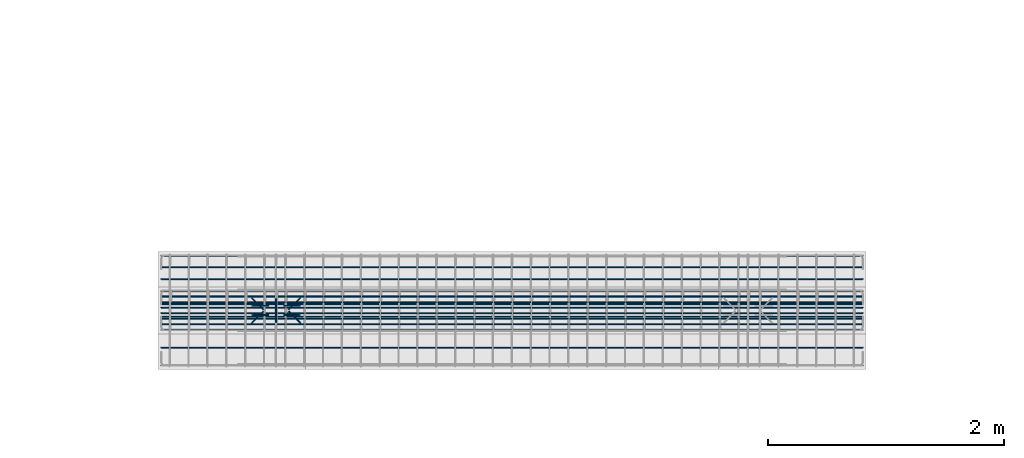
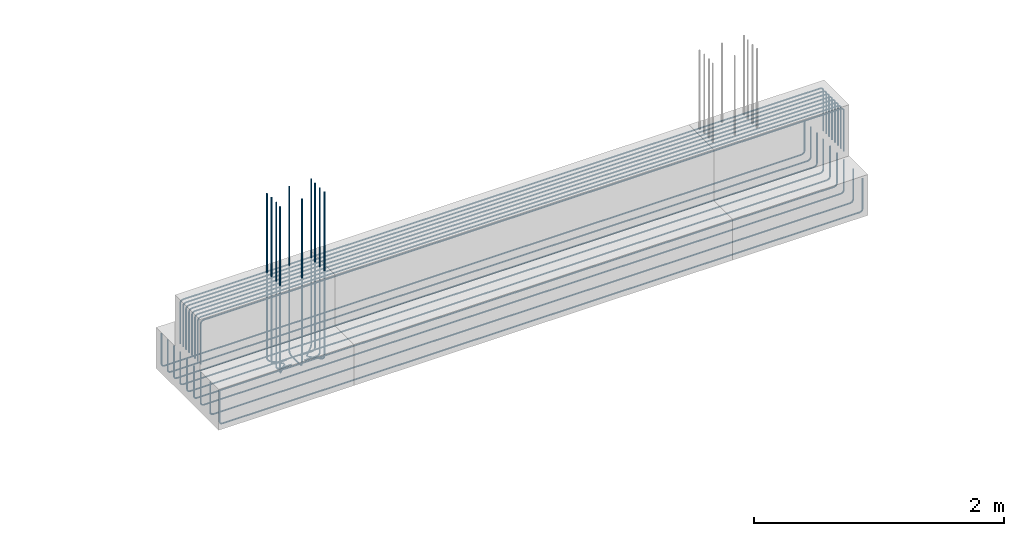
# One storey, part 20 of 23: 3 reinforcing bars.
"""IFC2X3 building model written with IfcOpenShell, lengths in metres."""

from ifc_helpers import new_model, entity, si_unit, direction, frame, origin, place, context, subcontext, project, spatial, shape, source, transform, mapped, element, save


model = new_model("IFC2X3")

# Units and contexts
model_context = context("Model", 3, precision=0.0, world=origin(), true_north=direction((0.0, 1.0)))
plan_context = context("Plan", 3, precision=0.0, world=origin(), true_north=direction((0.0, 1.0)))
body_context = subcontext(model_context, "Body", "Model", "MODEL_VIEW", scale=1.0)
ifc_project = project(units=[si_unit("LENGTHUNIT", "METRE"), si_unit("AREAUNIT", "SQUARE_METRE"), si_unit("VOLUMEUNIT", "CUBIC_METRE"), si_unit("PLANEANGLEUNIT", "RADIAN"), si_unit("THERMODYNAMICTEMPERATUREUNIT", "DEGREE_CELSIUS"), si_unit("FORCEUNIT", "NEWTON"), si_unit("MASSUNIT", "GRAM", prefix="KILO")], contexts=[model_context, plan_context])

# Site, building, storey
placement = place(None, origin())
site = spatial("IfcSite", under=ifc_project, at=placement, Name="Default Site", CompositionType="ELEMENT")
building = spatial("IfcBuilding", under=site, at=placement, Name="Default Building", CompositionType="ELEMENT")
storey_placement = place(placement, frame((0.0, 0.0, 0.0), z_axis=(1.0, 0.0, 0.0), x_axis=(0.0, 0.0, 1.0)))
storey = spatial("IfcBuildingStorey", under=building, at=storey_placement, Name="Piano 0", CompositionType="ELEMENT", Elevation=0.0)

# Reinforcing bars
shared_shape_1 = source(origin(), body_context, None, "AdvancedSweptSolid", [
    entity("IfcSweptDiskSolid", entity("IfcCompositeCurve", [entity("IfcCompositeCurveSegment", "CONTINUOUS", True, entity("IfcPolyline", [entity("IfcCartesianPoint", [0.0, 0.0, 0.0]), entity("IfcCartesianPoint", [0.0, 0.0, 0.396]), entity("IfcCartesianPoint", [0.003751, 0.0, 0.41]), entity("IfcCartesianPoint", [0.014, 0.0, 0.420249]), entity("IfcCartesianPoint", [0.028, 0.0, 0.424]), entity("IfcCartesianPoint", [0.972, 0.0, 0.424]), entity("IfcCartesianPoint", [4.972, 0.0, 0.424]), entity("IfcCartesianPoint", [5.916, 0.0, 0.424]), entity("IfcCartesianPoint", [5.93, 0.0, 0.420249]), entity("IfcCartesianPoint", [5.940249, 0.0, 0.41]), entity("IfcCartesianPoint", [5.944, 0.0, 0.396]), entity("IfcCartesianPoint", [5.944, 0.0, 0.0])]))], False), 0.007, 0.0, 0.0),
])
shared_shape_2 = source(origin(), body_context, None, "MappedRepresentation", [mapped(shared_shape_1, transform((11.028, -0.165, -0.466)))])
shared_shape_3 = source(origin(), body_context, None, "AdvancedSweptSolid", [
    entity("IfcSweptDiskSolid", entity("IfcCompositeCurve", [entity("IfcCompositeCurveSegment", "CONTINUOUS", True, entity("IfcPolyline", [entity("IfcCartesianPoint", [0.0, 0.0, 0.0]), entity("IfcCartesianPoint", [0.0, 0.0, 0.396]), entity("IfcCartesianPoint", [0.003751, 0.0, 0.41]), entity("IfcCartesianPoint", [0.014, 0.0, 0.420249]), entity("IfcCartesianPoint", [0.028, 0.0, 0.424]), entity("IfcCartesianPoint", [0.972, 0.0, 0.424]), entity("IfcCartesianPoint", [4.972, 0.0, 0.424]), entity("IfcCartesianPoint", [5.916, 0.0, 0.424]), entity("IfcCartesianPoint", [5.93, 0.0, 0.420249]), entity("IfcCartesianPoint", [5.940249, 0.0, 0.41]), entity("IfcCartesianPoint", [5.944, 0.0, 0.396]), entity("IfcCartesianPoint", [5.944, 0.0, 0.0])]))], False), 0.007, 0.0, 0.0),
])
shared_shape_4 = source(origin(), body_context, None, "MappedRepresentation", [mapped(shared_shape_3, transform((11.028, -0.117857, -0.466)))])
shared_shape_5 = source(origin(), body_context, None, "AdvancedSweptSolid", [
    entity("IfcSweptDiskSolid", entity("IfcCompositeCurve", [entity("IfcCompositeCurveSegment", "CONTINUOUS", True, entity("IfcPolyline", [entity("IfcCartesianPoint", [0.0, 0.0, 0.0]), entity("IfcCartesianPoint", [0.0, 0.0, 0.396]), entity("IfcCartesianPoint", [0.003751, 0.0, 0.41]), entity("IfcCartesianPoint", [0.014, 0.0, 0.420249]), entity("IfcCartesianPoint", [0.028, 0.0, 0.424]), entity("IfcCartesianPoint", [0.972, 0.0, 0.424]), entity("IfcCartesianPoint", [4.972, 0.0, 0.424]), entity("IfcCartesianPoint", [5.916, 0.0, 0.424]), entity("IfcCartesianPoint", [5.93, 0.0, 0.420249]), entity("IfcCartesianPoint", [5.940249, 0.0, 0.41]), entity("IfcCartesianPoint", [5.944, 0.0, 0.396]), entity("IfcCartesianPoint", [5.944, 0.0, 0.0])]))], False), 0.007, 0.0, 0.0),
])
shared_shape_6 = source(origin(), body_context, None, "MappedRepresentation", [mapped(shared_shape_5, transform((11.028, -0.070714, -0.466)))])
shared_shape_7 = source(origin(), body_context, None, "AdvancedSweptSolid", [
    entity("IfcSweptDiskSolid", entity("IfcCompositeCurve", [entity("IfcCompositeCurveSegment", "CONTINUOUS", True, entity("IfcPolyline", [entity("IfcCartesianPoint", [0.0, 0.0, 0.0]), entity("IfcCartesianPoint", [0.0, 0.0, 0.396]), entity("IfcCartesianPoint", [0.003751, 0.0, 0.41]), entity("IfcCartesianPoint", [0.014, 0.0, 0.420249]), entity("IfcCartesianPoint", [0.028, 0.0, 0.424]), entity("IfcCartesianPoint", [0.972, 0.0, 0.424]), entity("IfcCartesianPoint", [4.972, 0.0, 0.424]), entity("IfcCartesianPoint", [5.916, 0.0, 0.424]), entity("IfcCartesianPoint", [5.93, 0.0, 0.420249]), entity("IfcCartesianPoint", [5.940249, 0.0, 0.41]), entity("IfcCartesianPoint", [5.944, 0.0, 0.396]), entity("IfcCartesianPoint", [5.944, 0.0, 0.0])]))], False), 0.007, 0.0, 0.0),
])
shared_shape_8 = source(origin(), body_context, None, "MappedRepresentation", [mapped(shared_shape_7, transform((11.028, -0.023571, -0.466)))])
shared_shape_9 = source(origin(), body_context, None, "AdvancedSweptSolid", [
    entity("IfcSweptDiskSolid", entity("IfcCompositeCurve", [entity("IfcCompositeCurveSegment", "CONTINUOUS", True, entity("IfcPolyline", [entity("IfcCartesianPoint", [0.0, 0.0, 0.0]), entity("IfcCartesianPoint", [0.0, 0.0, 0.396]), entity("IfcCartesianPoint", [0.003751, 0.0, 0.41]), entity("IfcCartesianPoint", [0.014, 0.0, 0.420249]), entity("IfcCartesianPoint", [0.028, 0.0, 0.424]), entity("IfcCartesianPoint", [0.972, 0.0, 0.424]), entity("IfcCartesianPoint", [4.972, 0.0, 0.424]), entity("IfcCartesianPoint", [5.916, 0.0, 0.424]), entity("IfcCartesianPoint", [5.93, 0.0, 0.420249]), entity("IfcCartesianPoint", [5.940249, 0.0, 0.41]), entity("IfcCartesianPoint", [5.944, 0.0, 0.396]), entity("IfcCartesianPoint", [5.944, 0.0, 0.0])]))], False), 0.007, 0.0, 0.0),
])
shared_shape_10 = source(origin(), body_context, None, "MappedRepresentation", [mapped(shared_shape_9, transform((11.028, 0.023571, -0.466)))])
shared_shape_11 = source(origin(), body_context, None, "AdvancedSweptSolid", [
    entity("IfcSweptDiskSolid", entity("IfcCompositeCurve", [entity("IfcCompositeCurveSegment", "CONTINUOUS", True, entity("IfcPolyline", [entity("IfcCartesianPoint", [0.0, 0.0, 0.0]), entity("IfcCartesianPoint", [0.0, 0.0, 0.396]), entity("IfcCartesianPoint", [0.003751, 0.0, 0.41]), entity("IfcCartesianPoint", [0.014, 0.0, 0.420249]), entity("IfcCartesianPoint", [0.028, 0.0, 0.424]), entity("IfcCartesianPoint", [0.972, 0.0, 0.424]), entity("IfcCartesianPoint", [4.972, 0.0, 0.424]), entity("IfcCartesianPoint", [5.916, 0.0, 0.424]), entity("IfcCartesianPoint", [5.93, 0.0, 0.420249]), entity("IfcCartesianPoint", [5.940249, 0.0, 0.41]), entity("IfcCartesianPoint", [5.944, 0.0, 0.396]), entity("IfcCartesianPoint", [5.944, 0.0, 0.0])]))], False), 0.007, 0.0, 0.0),
])
shared_shape_12 = source(origin(), body_context, None, "MappedRepresentation", [mapped(shared_shape_11, transform((11.028, 0.070714, -0.466)))])
shared_shape_13 = source(origin(), body_context, None, "AdvancedSweptSolid", [
    entity("IfcSweptDiskSolid", entity("IfcCompositeCurve", [entity("IfcCompositeCurveSegment", "CONTINUOUS", True, entity("IfcPolyline", [entity("IfcCartesianPoint", [0.0, 0.0, 0.0]), entity("IfcCartesianPoint", [0.0, 0.0, 0.396]), entity("IfcCartesianPoint", [0.003751, 0.0, 0.41]), entity("IfcCartesianPoint", [0.014, 0.0, 0.420249]), entity("IfcCartesianPoint", [0.028, 0.0, 0.424]), entity("IfcCartesianPoint", [0.972, 0.0, 0.424]), entity("IfcCartesianPoint", [4.972, 0.0, 0.424]), entity("IfcCartesianPoint", [5.916, 0.0, 0.424]), entity("IfcCartesianPoint", [5.93, 0.0, 0.420249]), entity("IfcCartesianPoint", [5.940249, 0.0, 0.41]), entity("IfcCartesianPoint", [5.944, 0.0, 0.396]), entity("IfcCartesianPoint", [5.944, 0.0, 0.0])]))], False), 0.007, 0.0, 0.0),
])
shared_shape_14 = source(origin(), body_context, None, "MappedRepresentation", [mapped(shared_shape_13, transform((11.028, 0.117857, -0.466)))])
shared_shape_15 = source(origin(), body_context, None, "AdvancedSweptSolid", [
    entity("IfcSweptDiskSolid", entity("IfcCompositeCurve", [entity("IfcCompositeCurveSegment", "CONTINUOUS", True, entity("IfcPolyline", [entity("IfcCartesianPoint", [0.0, 0.0, 0.0]), entity("IfcCartesianPoint", [0.0, 0.0, 0.396]), entity("IfcCartesianPoint", [0.003751, 0.0, 0.41]), entity("IfcCartesianPoint", [0.014, 0.0, 0.420249]), entity("IfcCartesianPoint", [0.028, 0.0, 0.424]), entity("IfcCartesianPoint", [0.972, 0.0, 0.424]), entity("IfcCartesianPoint", [4.972, 0.0, 0.424]), entity("IfcCartesianPoint", [5.916, 0.0, 0.424]), entity("IfcCartesianPoint", [5.93, 0.0, 0.420249]), entity("IfcCartesianPoint", [5.940249, 0.0, 0.41]), entity("IfcCartesianPoint", [5.944, 0.0, 0.396]), entity("IfcCartesianPoint", [5.944, 0.0, 0.0])]))], False), 0.007, 0.0, 0.0),
])
shared_shape_16 = source(origin(), body_context, None, "MappedRepresentation", [mapped(shared_shape_15, transform((11.028, 0.165, -0.466)))])
element("IfcReinforcingBar", 1, at=placement, inside=storey, Name="Arm Superiore; Trave:1 [Piano:0]", BarLength=54.310963, BarRole="MAIN", BarSurface="TEXTURED", NominalDiameter=0.014, shapes=[
    shape(body_context, None, "MappedRepresentation", [mapped(shared_shape_2, transform((0.0, 0.0, 0.0))), mapped(shared_shape_4, transform((0.0, 0.0, 0.0))), mapped(shared_shape_6, transform((0.0, 0.0, 0.0))), mapped(shared_shape_8, transform((0.0, 0.0, 0.0))), mapped(shared_shape_10, transform((0.0, 0.0, 0.0))), mapped(shared_shape_12, transform((0.0, 0.0, 0.0))), mapped(shared_shape_14, transform((0.0, 0.0, 0.0))), mapped(shared_shape_16, transform((0.0, 0.0, 0.0)))]),
])
shared_shape_17 = source(origin(), body_context, None, "AdvancedSweptSolid", [
    entity("IfcSweptDiskSolid", entity("IfcCompositeCurve", [entity("IfcCompositeCurveSegment", "CONTINUOUS", True, entity("IfcPolyline", [entity("IfcCartesianPoint", [0.0, 0.0, 0.0]), entity("IfcCartesianPoint", [0.0, 0.0, -0.296]), entity("IfcCartesianPoint", [0.003751, 0.0, -0.31]), entity("IfcCartesianPoint", [0.014, 0.0, -0.320249]), entity("IfcCartesianPoint", [0.028, 0.0, -0.324]), entity("IfcCartesianPoint", [0.972, 0.0, -0.324]), entity("IfcCartesianPoint", [4.972, 0.0, -0.324]), entity("IfcCartesianPoint", [5.916, 0.0, -0.324]), entity("IfcCartesianPoint", [5.93, 0.0, -0.320249]), entity("IfcCartesianPoint", [5.940249, 0.0, -0.31]), entity("IfcCartesianPoint", [5.944, 0.0, -0.296]), entity("IfcCartesianPoint", [5.944, 0.0, 0.0])]))], False), 0.007, 0.0, 0.0),
])
shared_shape_18 = source(origin(), body_context, None, "MappedRepresentation", [mapped(shared_shape_17, transform((11.028, -0.465, -0.548)))])
shared_shape_19 = source(origin(), body_context, None, "AdvancedSweptSolid", [
    entity("IfcSweptDiskSolid", entity("IfcCompositeCurve", [entity("IfcCompositeCurveSegment", "CONTINUOUS", True, entity("IfcPolyline", [entity("IfcCartesianPoint", [0.0, 0.0, 0.0]), entity("IfcCartesianPoint", [0.0, 0.0, -0.296]), entity("IfcCartesianPoint", [0.003751, 0.0, -0.31]), entity("IfcCartesianPoint", [0.014, 0.0, -0.320249]), entity("IfcCartesianPoint", [0.028, 0.0, -0.324]), entity("IfcCartesianPoint", [0.972, 0.0, -0.324]), entity("IfcCartesianPoint", [4.972, 0.0, -0.324]), entity("IfcCartesianPoint", [5.916, 0.0, -0.324]), entity("IfcCartesianPoint", [5.93, 0.0, -0.320249]), entity("IfcCartesianPoint", [5.940249, 0.0, -0.31]), entity("IfcCartesianPoint", [5.944, 0.0, -0.296]), entity("IfcCartesianPoint", [5.944, 0.0, 0.0])]))], False), 0.007, 0.0, 0.0),
])
shared_shape_20 = source(origin(), body_context, None, "MappedRepresentation", [mapped(shared_shape_19, transform((11.028, -0.315, -0.548)))])
shared_shape_21 = source(origin(), body_context, None, "AdvancedSweptSolid", [
    entity("IfcSweptDiskSolid", entity("IfcCompositeCurve", [entity("IfcCompositeCurveSegment", "CONTINUOUS", True, entity("IfcPolyline", [entity("IfcCartesianPoint", [0.0, 0.0, 0.0]), entity("IfcCartesianPoint", [0.0, 0.0, -0.296]), entity("IfcCartesianPoint", [0.003751, 0.0, -0.31]), entity("IfcCartesianPoint", [0.014, 0.0, -0.320249]), entity("IfcCartesianPoint", [0.028, 0.0, -0.324]), entity("IfcCartesianPoint", [0.972, 0.0, -0.324]), entity("IfcCartesianPoint", [4.972, 0.0, -0.324]), entity("IfcCartesianPoint", [5.916, 0.0, -0.324]), entity("IfcCartesianPoint", [5.93, 0.0, -0.320249]), entity("IfcCartesianPoint", [5.940249, 0.0, -0.31]), entity("IfcCartesianPoint", [5.944, 0.0, -0.296]), entity("IfcCartesianPoint", [5.944, 0.0, 0.0])]))], False), 0.007, 0.0, 0.0),
])
shared_shape_22 = source(origin(), body_context, None, "MappedRepresentation", [mapped(shared_shape_21, transform((11.028, -0.165, -0.548)))])
shared_shape_23 = source(origin(), body_context, None, "AdvancedSweptSolid", [
    entity("IfcSweptDiskSolid", entity("IfcCompositeCurve", [entity("IfcCompositeCurveSegment", "CONTINUOUS", True, entity("IfcPolyline", [entity("IfcCartesianPoint", [0.0, 0.0, 0.0]), entity("IfcCartesianPoint", [0.0, 0.0, -0.296]), entity("IfcCartesianPoint", [0.003751, 0.0, -0.31]), entity("IfcCartesianPoint", [0.014, 0.0, -0.320249]), entity("IfcCartesianPoint", [0.028, 0.0, -0.324]), entity("IfcCartesianPoint", [0.972, 0.0, -0.324]), entity("IfcCartesianPoint", [4.972, 0.0, -0.324]), entity("IfcCartesianPoint", [5.916, 0.0, -0.324]), entity("IfcCartesianPoint", [5.93, 0.0, -0.320249]), entity("IfcCartesianPoint", [5.940249, 0.0, -0.31]), entity("IfcCartesianPoint", [5.944, 0.0, -0.296]), entity("IfcCartesianPoint", [5.944, 0.0, 0.0])]))], False), 0.007, 0.0, 0.0),
])
shared_shape_24 = source(origin(), body_context, None, "MappedRepresentation", [mapped(shared_shape_23, transform((11.028, -0.055, -0.548)))])
shared_shape_25 = source(origin(), body_context, None, "AdvancedSweptSolid", [
    entity("IfcSweptDiskSolid", entity("IfcCompositeCurve", [entity("IfcCompositeCurveSegment", "CONTINUOUS", True, entity("IfcPolyline", [entity("IfcCartesianPoint", [0.0, 0.0, 0.0]), entity("IfcCartesianPoint", [0.0, 0.0, -0.296]), entity("IfcCartesianPoint", [0.003751, 0.0, -0.31]), entity("IfcCartesianPoint", [0.014, 0.0, -0.320249]), entity("IfcCartesianPoint", [0.028, 0.0, -0.324]), entity("IfcCartesianPoint", [0.972, 0.0, -0.324]), entity("IfcCartesianPoint", [4.972, 0.0, -0.324]), entity("IfcCartesianPoint", [5.916, 0.0, -0.324]), entity("IfcCartesianPoint", [5.93, 0.0, -0.320249]), entity("IfcCartesianPoint", [5.940249, 0.0, -0.31]), entity("IfcCartesianPoint", [5.944, 0.0, -0.296]), entity("IfcCartesianPoint", [5.944, 0.0, 0.0])]))], False), 0.007, 0.0, 0.0),
])
shared_shape_26 = source(origin(), body_context, None, "MappedRepresentation", [mapped(shared_shape_25, transform((11.028, 0.055, -0.548)))])
shared_shape_27 = source(origin(), body_context, None, "AdvancedSweptSolid", [
    entity("IfcSweptDiskSolid", entity("IfcCompositeCurve", [entity("IfcCompositeCurveSegment", "CONTINUOUS", True, entity("IfcPolyline", [entity("IfcCartesianPoint", [0.0, 0.0, 0.0]), entity("IfcCartesianPoint", [0.0, 0.0, -0.296]), entity("IfcCartesianPoint", [0.003751, 0.0, -0.31]), entity("IfcCartesianPoint", [0.014, 0.0, -0.320249]), entity("IfcCartesianPoint", [0.028, 0.0, -0.324]), entity("IfcCartesianPoint", [0.972, 0.0, -0.324]), entity("IfcCartesianPoint", [4.972, 0.0, -0.324]), entity("IfcCartesianPoint", [5.916, 0.0, -0.324]), entity("IfcCartesianPoint", [5.93, 0.0, -0.320249]), entity("IfcCartesianPoint", [5.940249, 0.0, -0.31]), entity("IfcCartesianPoint", [5.944, 0.0, -0.296]), entity("IfcCartesianPoint", [5.944, 0.0, 0.0])]))], False), 0.007, 0.0, 0.0),
])
shared_shape_28 = source(origin(), body_context, None, "MappedRepresentation", [mapped(shared_shape_27, transform((11.028, 0.165, -0.548)))])
shared_shape_29 = source(origin(), body_context, None, "AdvancedSweptSolid", [
    entity("IfcSweptDiskSolid", entity("IfcCompositeCurve", [entity("IfcCompositeCurveSegment", "CONTINUOUS", True, entity("IfcPolyline", [entity("IfcCartesianPoint", [0.0, 0.0, 0.0]), entity("IfcCartesianPoint", [0.0, 0.0, -0.296]), entity("IfcCartesianPoint", [0.003751, 0.0, -0.31]), entity("IfcCartesianPoint", [0.014, 0.0, -0.320249]), entity("IfcCartesianPoint", [0.028, 0.0, -0.324]), entity("IfcCartesianPoint", [0.972, 0.0, -0.324]), entity("IfcCartesianPoint", [4.972, 0.0, -0.324]), entity("IfcCartesianPoint", [5.916, 0.0, -0.324]), entity("IfcCartesianPoint", [5.93, 0.0, -0.320249]), entity("IfcCartesianPoint", [5.940249, 0.0, -0.31]), entity("IfcCartesianPoint", [5.944, 0.0, -0.296]), entity("IfcCartesianPoint", [5.944, 0.0, 0.0])]))], False), 0.007, 0.0, 0.0),
])
shared_shape_30 = source(origin(), body_context, None, "MappedRepresentation", [mapped(shared_shape_29, transform((11.028, 0.265, -0.548)))])
shared_shape_31 = source(origin(), body_context, None, "AdvancedSweptSolid", [
    entity("IfcSweptDiskSolid", entity("IfcCompositeCurve", [entity("IfcCompositeCurveSegment", "CONTINUOUS", True, entity("IfcPolyline", [entity("IfcCartesianPoint", [0.0, 0.0, 0.0]), entity("IfcCartesianPoint", [0.0, 0.0, -0.296]), entity("IfcCartesianPoint", [0.003751, 0.0, -0.31]), entity("IfcCartesianPoint", [0.014, 0.0, -0.320249]), entity("IfcCartesianPoint", [0.028, 0.0, -0.324]), entity("IfcCartesianPoint", [0.972, 0.0, -0.324]), entity("IfcCartesianPoint", [4.972, 0.0, -0.324]), entity("IfcCartesianPoint", [5.916, 0.0, -0.324]), entity("IfcCartesianPoint", [5.93, 0.0, -0.320249]), entity("IfcCartesianPoint", [5.940249, 0.0, -0.31]), entity("IfcCartesianPoint", [5.944, 0.0, -0.296]), entity("IfcCartesianPoint", [5.944, 0.0, 0.0])]))], False), 0.007, 0.0, 0.0),
])
shared_shape_32 = source(origin(), body_context, None, "MappedRepresentation", [mapped(shared_shape_31, transform((11.028, 0.365, -0.548)))])
shared_shape_33 = source(origin(), body_context, None, "AdvancedSweptSolid", [
    entity("IfcSweptDiskSolid", entity("IfcCompositeCurve", [entity("IfcCompositeCurveSegment", "CONTINUOUS", True, entity("IfcPolyline", [entity("IfcCartesianPoint", [0.0, 0.0, 0.0]), entity("IfcCartesianPoint", [0.0, 0.0, -0.296]), entity("IfcCartesianPoint", [0.003751, 0.0, -0.31]), entity("IfcCartesianPoint", [0.014, 0.0, -0.320249]), entity("IfcCartesianPoint", [0.028, 0.0, -0.324]), entity("IfcCartesianPoint", [0.972, 0.0, -0.324]), entity("IfcCartesianPoint", [4.972, 0.0, -0.324]), entity("IfcCartesianPoint", [5.916, 0.0, -0.324]), entity("IfcCartesianPoint", [5.93, 0.0, -0.320249]), entity("IfcCartesianPoint", [5.940249, 0.0, -0.31]), entity("IfcCartesianPoint", [5.944, 0.0, -0.296]), entity("IfcCartesianPoint", [5.944, 0.0, 0.0])]))], False), 0.007, 0.0, 0.0),
])
shared_shape_34 = source(origin(), body_context, None, "MappedRepresentation", [mapped(shared_shape_33, transform((11.028, 0.465, -0.548)))])
element("IfcReinforcingBar", 2, at=placement, inside=storey, Name="Arm Inferiore; Trave:1 [Piano:0]", BarLength=59.302963, BarRole="MAIN", BarSurface="TEXTURED", NominalDiameter=0.014, shapes=[
    shape(body_context, None, "MappedRepresentation", [mapped(shared_shape_18, transform((0.0, 0.0, 0.0))), mapped(shared_shape_20, transform((0.0, 0.0, 0.0))), mapped(shared_shape_22, transform((0.0, 0.0, 0.0))), mapped(shared_shape_24, transform((0.0, 0.0, 0.0))), mapped(shared_shape_26, transform((0.0, 0.0, 0.0))), mapped(shared_shape_28, transform((0.0, 0.0, 0.0))), mapped(shared_shape_30, transform((0.0, 0.0, 0.0))), mapped(shared_shape_32, transform((0.0, 0.0, 0.0))), mapped(shared_shape_34, transform((0.0, 0.0, 0.0)))]),
])
shared_shape_35 = source(origin(), body_context, None, "AdvancedSweptSolid", [
    entity("IfcSweptDiskSolid", entity("IfcCompositeCurve", [entity("IfcCompositeCurveSegment", "CONTINUOUS", True, entity("IfcPolyline", [entity("IfcCartesianPoint", [0.0, 0.0, 0.0]), entity("IfcCartesianPoint", [-0.079196, -0.079196, 0.0]), entity("IfcCartesianPoint", [-0.089095, -0.089095, 0.003751]), entity("IfcCartesianPoint", [-0.096342, -0.096342, 0.014]), entity("IfcCartesianPoint", [-0.098995, -0.098995, 0.028]), entity("IfcCartesianPoint", [-0.098995, -0.098995, 1.635])]))], False), 0.007, 0.0, 0.0),
])
shared_shape_36 = source(origin(), body_context, None, "MappedRepresentation", [mapped(shared_shape_35, transform((11.893894, -0.006106, -0.865)))])
shared_shape_37 = source(origin(), body_context, None, "AdvancedSweptSolid", [
    entity("IfcSweptDiskSolid", entity("IfcCompositeCurve", [entity("IfcCompositeCurveSegment", "CONTINUOUS", True, entity("IfcPolyline", [entity("IfcCartesianPoint", [0.0, 0.0, 0.0]), entity("IfcCartesianPoint", [0.079196, -0.079196, 0.0]), entity("IfcCartesianPoint", [0.089095, -0.089095, 0.003751]), entity("IfcCartesianPoint", [0.096342, -0.096342, 0.014]), entity("IfcCartesianPoint", [0.098995, -0.098995, 0.028]), entity("IfcCartesianPoint", [0.098995, -0.098995, 1.635])]))], False), 0.007, 0.0, 0.0),
])
shared_shape_38 = source(origin(), body_context, None, "MappedRepresentation", [mapped(shared_shape_37, transform((12.106106, -0.006106, -0.865)))])
shared_shape_39 = source(origin(), body_context, None, "AdvancedSweptSolid", [
    entity("IfcSweptDiskSolid", entity("IfcCompositeCurve", [entity("IfcCompositeCurveSegment", "CONTINUOUS", True, entity("IfcPolyline", [entity("IfcCartesianPoint", [0.0, 0.0, 0.0]), entity("IfcCartesianPoint", [0.079196, 0.079196, 0.0]), entity("IfcCartesianPoint", [0.089095, 0.089095, 0.003751]), entity("IfcCartesianPoint", [0.096342, 0.096342, 0.014]), entity("IfcCartesianPoint", [0.098995, 0.098995, 0.028]), entity("IfcCartesianPoint", [0.098995, 0.098995, 1.635])]))], False), 0.007, 0.0, 0.0),
])
shared_shape_40 = source(origin(), body_context, None, "MappedRepresentation", [mapped(shared_shape_39, transform((12.106106, 0.006106, -0.865)))])
shared_shape_41 = source(origin(), body_context, None, "AdvancedSweptSolid", [
    entity("IfcSweptDiskSolid", entity("IfcCompositeCurve", [entity("IfcCompositeCurveSegment", "CONTINUOUS", True, entity("IfcPolyline", [entity("IfcCartesianPoint", [0.0, 0.0, 0.0]), entity("IfcCartesianPoint", [-0.079196, 0.079196, 0.0]), entity("IfcCartesianPoint", [-0.089095, 0.089095, 0.003751]), entity("IfcCartesianPoint", [-0.096342, 0.096342, 0.014]), entity("IfcCartesianPoint", [-0.098995, 0.098995, 0.028]), entity("IfcCartesianPoint", [-0.098995, 0.098995, 1.635])]))], False), 0.007, 0.0, 0.0),
])
shared_shape_42 = source(origin(), body_context, None, "MappedRepresentation", [mapped(shared_shape_41, transform((11.893894, 0.006106, -0.865)))])
shared_shape_43 = source(origin(), body_context, None, "AdvancedSweptSolid", [
    entity("IfcSweptDiskSolid", entity("IfcCompositeCurve", [entity("IfcCompositeCurveSegment", "CONTINUOUS", True, entity("IfcPolyline", [entity("IfcCartesianPoint", [0.0, 0.0, 0.0]), entity("IfcCartesianPoint", [0.0, -0.112, 0.0]), entity("IfcCartesianPoint", [0.0, -0.126, 0.003751]), entity("IfcCartesianPoint", [0.0, -0.136249, 0.014]), entity("IfcCartesianPoint", [0.0, -0.14, 0.028]), entity("IfcCartesianPoint", [0.0, -0.14, 1.635])]))], False), 0.007, 0.0, 0.0),
])
shared_shape_44 = source(origin(), body_context, None, "MappedRepresentation", [mapped(shared_shape_43, transform((12.0, 0.039, -0.865)))])
shared_shape_45 = source(origin(), body_context, None, "AdvancedSweptSolid", [
    entity("IfcSweptDiskSolid", entity("IfcCompositeCurve", [entity("IfcCompositeCurveSegment", "CONTINUOUS", True, entity("IfcPolyline", [entity("IfcCartesianPoint", [0.0, 0.0, 0.0]), entity("IfcCartesianPoint", [0.112, 0.0, 0.0]), entity("IfcCartesianPoint", [0.126, 0.0, 0.003751]), entity("IfcCartesianPoint", [0.136249, 0.0, 0.014]), entity("IfcCartesianPoint", [0.14, 0.0, 0.028]), entity("IfcCartesianPoint", [0.14, 0.0, 1.635])]))], False), 0.007, 0.0, 0.0),
])
shared_shape_46 = source(origin(), body_context, None, "MappedRepresentation", [mapped(shared_shape_45, transform((12.061, -0.038333, -0.865)))])
shared_shape_47 = source(origin(), body_context, None, "AdvancedSweptSolid", [
    entity("IfcSweptDiskSolid", entity("IfcCompositeCurve", [entity("IfcCompositeCurveSegment", "CONTINUOUS", True, entity("IfcPolyline", [entity("IfcCartesianPoint", [0.0, 0.0, 0.0]), entity("IfcCartesianPoint", [0.112, 0.0, 0.0]), entity("IfcCartesianPoint", [0.126, 0.0, 0.003751]), entity("IfcCartesianPoint", [0.136249, 0.0, 0.014]), entity("IfcCartesianPoint", [0.14, 0.0, 0.028]), entity("IfcCartesianPoint", [0.14, 0.0, 1.635])]))], False), 0.007, 0.0, 0.0),
])
shared_shape_48 = source(origin(), body_context, None, "MappedRepresentation", [mapped(shared_shape_47, transform((12.061, 0.038333, -0.865)))])
shared_shape_49 = source(origin(), body_context, None, "AdvancedSweptSolid", [
    entity("IfcSweptDiskSolid", entity("IfcCompositeCurve", [entity("IfcCompositeCurveSegment", "CONTINUOUS", True, entity("IfcPolyline", [entity("IfcCartesianPoint", [0.0, 0.0, 0.0]), entity("IfcCartesianPoint", [0.0, 0.112, 0.0]), entity("IfcCartesianPoint", [0.0, 0.126, 0.003751]), entity("IfcCartesianPoint", [0.0, 0.136249, 0.014]), entity("IfcCartesianPoint", [0.0, 0.14, 0.028]), entity("IfcCartesianPoint", [0.0, 0.14, 1.635])]))], False), 0.007, 0.0, 0.0),
])
shared_shape_50 = source(origin(), body_context, None, "MappedRepresentation", [mapped(shared_shape_49, transform((12.0, -0.039, -0.865)))])
shared_shape_51 = source(origin(), body_context, None, "AdvancedSweptSolid", [
    entity("IfcSweptDiskSolid", entity("IfcCompositeCurve", [entity("IfcCompositeCurveSegment", "CONTINUOUS", True, entity("IfcPolyline", [entity("IfcCartesianPoint", [0.0, 0.0, 0.0]), entity("IfcCartesianPoint", [-0.112, 0.0, 0.0]), entity("IfcCartesianPoint", [-0.126, 0.0, 0.003751]), entity("IfcCartesianPoint", [-0.136249, 0.0, 0.014]), entity("IfcCartesianPoint", [-0.14, 0.0, 0.028]), entity("IfcCartesianPoint", [-0.14, 0.0, 1.635])]))], False), 0.007, 0.0, 0.0),
])
shared_shape_52 = source(origin(), body_context, None, "MappedRepresentation", [mapped(shared_shape_51, transform((11.939, 0.038333, -0.865)))])
shared_shape_53 = source(origin(), body_context, None, "AdvancedSweptSolid", [
    entity("IfcSweptDiskSolid", entity("IfcCompositeCurve", [entity("IfcCompositeCurveSegment", "CONTINUOUS", True, entity("IfcPolyline", [entity("IfcCartesianPoint", [0.0, 0.0, 0.0]), entity("IfcCartesianPoint", [-0.112, 0.0, 0.0]), entity("IfcCartesianPoint", [-0.126, 0.0, 0.003751]), entity("IfcCartesianPoint", [-0.136249, 0.0, 0.014]), entity("IfcCartesianPoint", [-0.14, 0.0, 0.028]), entity("IfcCartesianPoint", [-0.14, 0.0, 1.635])]))], False), 0.007, 0.0, 0.0),
])
shared_shape_54 = source(origin(), body_context, None, "MappedRepresentation", [mapped(shared_shape_53, transform((11.939, -0.038333, -0.865)))])
element("IfcReinforcingBar", 3, at=placement, inside=storey, Name="Arm Ancoraggio; Nodo:4 [Piano:0]", BarLength=17.649853, BarSurface="TEXTURED", NominalDiameter=0.014, shapes=[
    shape(body_context, None, "MappedRepresentation", [mapped(shared_shape_36, transform((0.0, 0.0, 0.0))), mapped(shared_shape_38, transform((0.0, 0.0, 0.0))), mapped(shared_shape_40, transform((0.0, 0.0, 0.0))), mapped(shared_shape_42, transform((0.0, 0.0, 0.0))), mapped(shared_shape_44, transform((0.0, 0.0, 0.0))), mapped(shared_shape_46, transform((0.0, 0.0, 0.0))), mapped(shared_shape_48, transform((0.0, 0.0, 0.0))), mapped(shared_shape_50, transform((0.0, 0.0, 0.0))), mapped(shared_shape_52, transform((0.0, 0.0, 0.0))), mapped(shared_shape_54, transform((0.0, 0.0, 0.0)))]),
])

save(model, "model.ifc")
